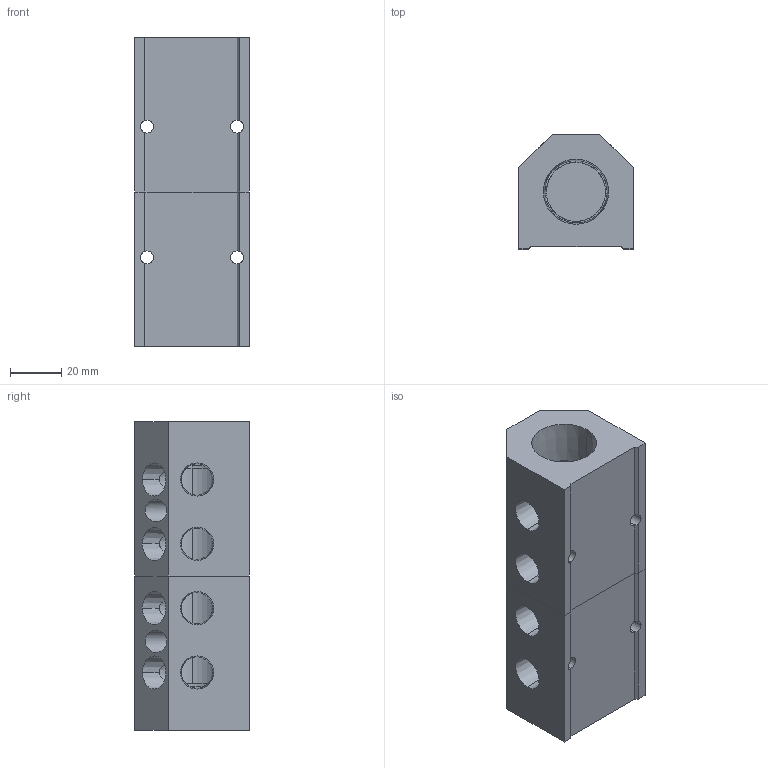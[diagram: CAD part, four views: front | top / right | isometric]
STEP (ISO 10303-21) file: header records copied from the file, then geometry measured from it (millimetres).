
FILE_DESCRIPTION (( 'STEP AP214' ), '1' );
FILE_NAME ('ALM4ABC-N4N12-120RB.step', '2022-02-06T14:18:35', ( '' ), ( '' ), 'SwSTEP 2.0', 'SolidWorks 2020', '' );
FILE_SCHEMA (( 'AUTOMOTIVE_DESIGN' ));
Length unit declared in the file: millimetre
Products named in the file (1): ALM4ABC-N4N12-120RB
Bounding box: 44.5 x 44.5 x 120 mm (x, y, z)
Volume: 141711.4 mm3; surface area: 39819.7 mm2
Topology: 2 solids, 2 shells, 380 faces, 1043 edges, 692 vertices
Faces by surface type: plane 255, bspline 59, cone 35, cylinder 31
Entity records: 20480 total; most frequent: CARTESIAN_POINT 7699, ORIENTED_EDGE 2086, DIRECTION 1535, EDGE_CURVE 1043, LINE 719, VECTOR 719, VERTEX_POINT 692, EDGE_LOOP 437
